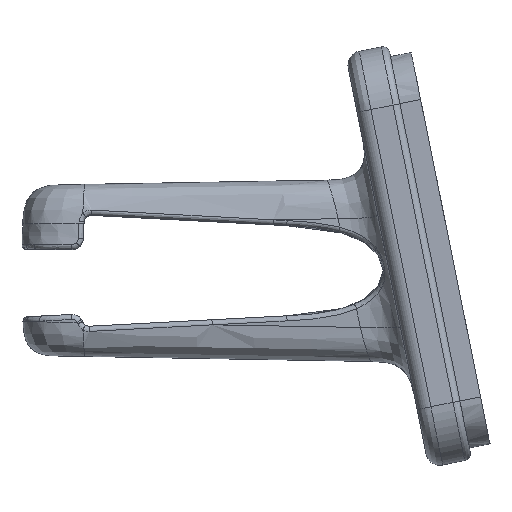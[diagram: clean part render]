
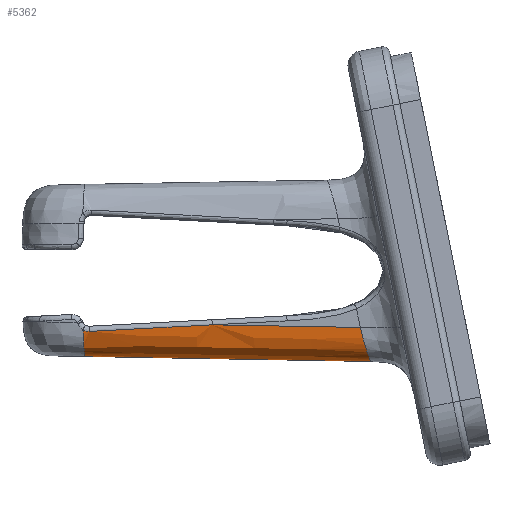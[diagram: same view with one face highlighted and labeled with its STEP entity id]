
A CAD part, front view. The second image highlights one B-rep face of the part: STEP entity #5362.
In plain terms, the highlighted free-form (B-spline) face has degree [5, 5] with [6, 6] control points.
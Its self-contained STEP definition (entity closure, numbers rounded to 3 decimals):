
#4274=CARTESIAN_POINT('',(2511.628,171.674,1640.244));
#4275=VERTEX_POINT('',#4274);
#4285=CARTESIAN_POINT('',(2511.523,169.174,1642.153));
#4286=VERTEX_POINT('',#4285);
#4287=CARTESIAN_POINT('',(2511.523,169.174,1642.153));
#4288=CARTESIAN_POINT('',(2511.532,169.191,1641.992));
#4289=CARTESIAN_POINT('',(2511.542,169.215,1641.835));
#4290=CARTESIAN_POINT('',(2511.55,169.25,1641.685));
#4291=CARTESIAN_POINT('',(2511.559,169.285,1641.535));
#4292=CARTESIAN_POINT('',(2511.568,169.331,1641.392));
#4293=CARTESIAN_POINT('',(2511.576,169.391,1641.261));
#4294=CARTESIAN_POINT('',(2511.591,169.511,1640.997));
#4295=CARTESIAN_POINT('',(2511.604,169.684,1640.778));
#4296=CARTESIAN_POINT('',(2511.612,169.909,1640.617));
#4297=CARTESIAN_POINT('',(2511.616,170.021,1640.536));
#4298=CARTESIAN_POINT('',(2511.619,170.145,1640.47));
#4299=CARTESIAN_POINT('',(2511.621,170.28,1640.418));
#4300=CARTESIAN_POINT('',(2511.624,170.414,1640.366));
#4301=CARTESIAN_POINT('',(2511.625,170.559,1640.327));
#4302=CARTESIAN_POINT('',(2511.626,170.71,1640.301));
#4303=CARTESIAN_POINT('',(2511.626,170.862,1640.274));
#4304=CARTESIAN_POINT('',(2511.626,171.02,1640.259));
#4305=CARTESIAN_POINT('',(2511.627,171.182,1640.252));
#4306=CARTESIAN_POINT('',(2511.627,171.344,1640.244));
#4307=CARTESIAN_POINT('',(2511.627,171.509,1640.244));
#4308=CARTESIAN_POINT('',(2511.628,171.674,1640.244));
#4309=B_SPLINE_CURVE_WITH_KNOTS('',3,(#4287,#4288,#4289,#4290,#4291,#4292,#4293,#4294,#4295,#4296,#4297,#4298,#4299,#4300,#4301,#4302,#4303,#4304,#4305,#4306,#4307,#4308),.UNSPECIFIED.,.F.,.F.,(4,3,3,3,3,3,3,4),(0.,0.125,0.25,0.5,0.625,0.75,0.875,1.),.UNSPECIFIED.);
#4310=EDGE_CURVE('',#4286,#4275,#4309,.T.);
#4630=CARTESIAN_POINT('',(2532.088,171.673,1639.887));
#4631=VERTEX_POINT('',#4630);
#4637=CARTESIAN_POINT('',(2511.628,171.674,1640.244));
#4638=CARTESIAN_POINT('',(2518.448,171.674,1640.125));
#4639=CARTESIAN_POINT('',(2525.268,171.674,1640.006));
#4640=CARTESIAN_POINT('',(2532.088,171.673,1639.887));
#4641=B_SPLINE_CURVE_WITH_KNOTS('',3,(#4637,#4638,#4639,#4640),.UNSPECIFIED.,.F.,.F.,(4,4),(-2.253,-0.206),.UNSPECIFIED.);
#4642=EDGE_CURVE('',#4275,#4631,#4641,.T.);
#5266=CARTESIAN_POINT('',(2531.645,169.135,1642.306));
#5267=CARTESIAN_POINT('',(2531.809,169.181,1641.409));
#5268=CARTESIAN_POINT('',(2531.973,169.239,1640.512));
#5269=CARTESIAN_POINT('',(2532.088,169.882,1639.887));
#5270=CARTESIAN_POINT('',(2532.088,170.777,1639.887));
#5271=CARTESIAN_POINT('',(2532.088,171.673,1639.887));
#5272=CARTESIAN_POINT('',(2527.621,169.137,1642.377));
#5273=CARTESIAN_POINT('',(2527.752,169.182,1641.48));
#5274=CARTESIAN_POINT('',(2527.883,169.24,1640.584));
#5275=CARTESIAN_POINT('',(2527.974,169.882,1639.959));
#5276=CARTESIAN_POINT('',(2527.974,170.778,1639.959));
#5277=CARTESIAN_POINT('',(2527.974,171.673,1639.959));
#5278=CARTESIAN_POINT('',(2523.597,169.138,1642.448));
#5279=CARTESIAN_POINT('',(2523.694,169.182,1641.551));
#5280=CARTESIAN_POINT('',(2523.792,169.24,1640.656));
#5281=CARTESIAN_POINT('',(2523.861,169.882,1640.03));
#5282=CARTESIAN_POINT('',(2523.861,170.778,1640.03));
#5283=CARTESIAN_POINT('',(2523.861,171.674,1640.03));
#5284=CARTESIAN_POINT('',(2519.572,169.139,1642.519));
#5285=CARTESIAN_POINT('',(2519.637,169.183,1641.623));
#5286=CARTESIAN_POINT('',(2519.702,169.24,1640.727));
#5287=CARTESIAN_POINT('',(2519.747,169.882,1640.102));
#5288=CARTESIAN_POINT('',(2519.747,170.778,1640.102));
#5289=CARTESIAN_POINT('',(2519.747,171.674,1640.102));
#5290=CARTESIAN_POINT('',(2515.548,169.14,1642.589));
#5291=CARTESIAN_POINT('',(2515.58,169.183,1641.694));
#5292=CARTESIAN_POINT('',(2515.611,169.24,1640.799));
#5293=CARTESIAN_POINT('',(2515.634,169.882,1640.174));
#5294=CARTESIAN_POINT('',(2515.634,170.778,1640.174));
#5295=CARTESIAN_POINT('',(2515.634,171.674,1640.174));
#5296=CARTESIAN_POINT('',(2511.524,169.14,1642.66));
#5297=CARTESIAN_POINT('',(2511.523,169.184,1641.765));
#5298=CARTESIAN_POINT('',(2511.521,169.24,1640.871));
#5299=CARTESIAN_POINT('',(2511.52,169.882,1640.246));
#5300=CARTESIAN_POINT('',(2511.52,170.778,1640.246));
#5301=CARTESIAN_POINT('',(2511.52,171.674,1640.246));
#5302=B_SPLINE_SURFACE_WITH_KNOTS('',5,5,((#5266,#5267,#5268,#5269,#5270,#5271),(#5272,#5273,#5274,#5275,#5276,#5277),(#5278,#5279,#5280,#5281,#5282,#5283),(#5284,#5285,#5286,#5287,#5288,#5289),(#5290,#5291,#5292,#5293,#5294,#5295),(#5296,#5297,#5298,#5299,#5300,#5301)),.UNSPECIFIED.,.F.,.F.,.U.,(6,6),(6,6),(0.255,2.267),(-0.,1.),.UNSPECIFIED.);
#5303=ORIENTED_EDGE('',*,*,#4310,.T.);
#5304=ORIENTED_EDGE('',*,*,#4642,.T.);
#5305=CARTESIAN_POINT('',(2531.286,169.135,1642.312));
#5306=VERTEX_POINT('',#5305);
#5307=CARTESIAN_POINT('',(2531.286,169.135,1642.312));
#5308=CARTESIAN_POINT('',(2531.325,169.145,1642.125));
#5309=CARTESIAN_POINT('',(2531.368,169.156,1641.938));
#5310=CARTESIAN_POINT('',(2531.415,169.176,1641.756));
#5311=CARTESIAN_POINT('',(2531.461,169.197,1641.575));
#5312=CARTESIAN_POINT('',(2531.509,169.227,1641.398));
#5313=CARTESIAN_POINT('',(2531.557,169.273,1641.232));
#5314=CARTESIAN_POINT('',(2531.605,169.319,1641.067));
#5315=CARTESIAN_POINT('',(2531.653,169.38,1640.912));
#5316=CARTESIAN_POINT('',(2531.7,169.458,1640.771));
#5317=CARTESIAN_POINT('',(2531.746,169.537,1640.631));
#5318=CARTESIAN_POINT('',(2531.79,169.632,1640.506));
#5319=CARTESIAN_POINT('',(2531.831,169.744,1640.398));
#5320=CARTESIAN_POINT('',(2531.872,169.856,1640.291));
#5321=CARTESIAN_POINT('',(2531.909,169.985,1640.201));
#5322=CARTESIAN_POINT('',(2531.941,170.128,1640.129));
#5323=CARTESIAN_POINT('',(2531.974,170.271,1640.058));
#5324=CARTESIAN_POINT('',(2532.001,170.427,1640.005));
#5325=CARTESIAN_POINT('',(2532.023,170.594,1639.967));
#5326=CARTESIAN_POINT('',(2532.045,170.76,1639.93));
#5327=CARTESIAN_POINT('',(2532.061,170.937,1639.909));
#5328=CARTESIAN_POINT('',(2532.072,171.118,1639.898));
#5329=CARTESIAN_POINT('',(2532.083,171.3,1639.887));
#5330=CARTESIAN_POINT('',(2532.088,171.486,1639.887));
#5331=CARTESIAN_POINT('',(2532.088,171.673,1639.887));
#5332=B_SPLINE_CURVE_WITH_KNOTS('',3,(#5307,#5308,#5309,#5310,#5311,#5312,#5313,#5314,#5315,#5316,#5317,#5318,#5319,#5320,#5321,#5322,#5323,#5324,#5325,#5326,#5327,#5328,#5329,#5330,#5331),.UNSPECIFIED.,.F.,.F.,(4,3,3,3,3,3,3,3,4),(0.,0.125,0.25,0.375,0.5,0.625,0.75,0.875,1.),.UNSPECIFIED.);
#5333=EDGE_CURVE('',#5306,#4631,#5332,.T.);
#5334=ORIENTED_EDGE('',*,*,#5333,.F.);
#5335=CARTESIAN_POINT('',(2520.735,169.138,1642.498));
#5336=VERTEX_POINT('',#5335);
#5337=CARTESIAN_POINT('',(2520.735,169.138,1642.498));
#5338=CARTESIAN_POINT('',(2524.252,169.138,1642.436));
#5339=CARTESIAN_POINT('',(2527.769,169.137,1642.374));
#5340=CARTESIAN_POINT('',(2531.286,169.135,1642.312));
#5341=B_SPLINE_CURVE_WITH_KNOTS('',3,(#5337,#5338,#5339,#5340),.UNSPECIFIED.,.F.,.F.,(4,4),(-1.346,-0.291),.UNSPECIFIED.);
#5342=EDGE_CURVE('',#5336,#5306,#5341,.T.);
#5343=ORIENTED_EDGE('',*,*,#5342,.F.);
#5344=CARTESIAN_POINT('',(2512.007,169.188,1642.028));
#5345=VERTEX_POINT('',#5344);
#5346=CARTESIAN_POINT('',(2520.735,169.138,1642.498));
#5347=CARTESIAN_POINT('',(2517.878,169.149,1642.348));
#5348=CARTESIAN_POINT('',(2514.89,169.161,1642.187));
#5349=CARTESIAN_POINT('',(2512.007,169.188,1642.028));
#5350=B_SPLINE_CURVE_WITH_KNOTS('',3,(#5346,#5347,#5348,#5349),.UNSPECIFIED.,.F.,.F.,(4,4),(-0.874,0.),.UNSPECIFIED.);
#5351=EDGE_CURVE('',#5336,#5345,#5350,.T.);
#5352=ORIENTED_EDGE('',*,*,#5351,.T.);
#5353=CARTESIAN_POINT('',(2512.007,169.188,1642.028));
#5354=CARTESIAN_POINT('',(2511.797,169.19,1642.017));
#5355=CARTESIAN_POINT('',(2511.632,169.181,1642.086));
#5356=CARTESIAN_POINT('',(2511.523,169.174,1642.153));
#5357=B_SPLINE_CURVE_WITH_KNOTS('',3,(#5353,#5354,#5355,#5356),.UNSPECIFIED.,.F.,.F.,(4,4),(-0.052,0.),.UNSPECIFIED.);
#5358=EDGE_CURVE('',#5345,#4286,#5357,.T.);
#5359=ORIENTED_EDGE('',*,*,#5358,.T.);
#5360=EDGE_LOOP('',(#5303,#5304,#5334,#5343,#5352,#5359));
#5361=FACE_BOUND('',#5360,.T.);
#5362=ADVANCED_FACE('Slat_Snap#24',(#5361),#5302,.T.);
